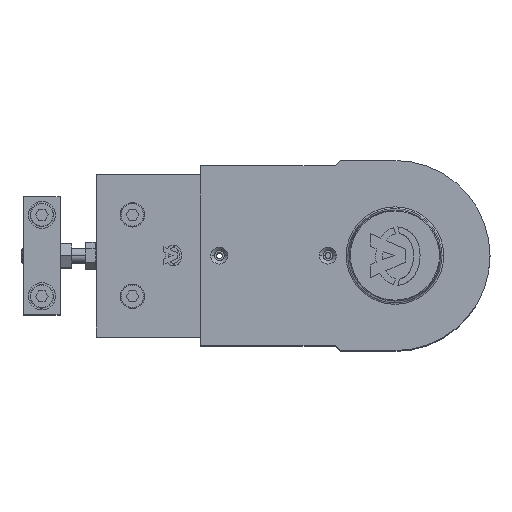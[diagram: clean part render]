
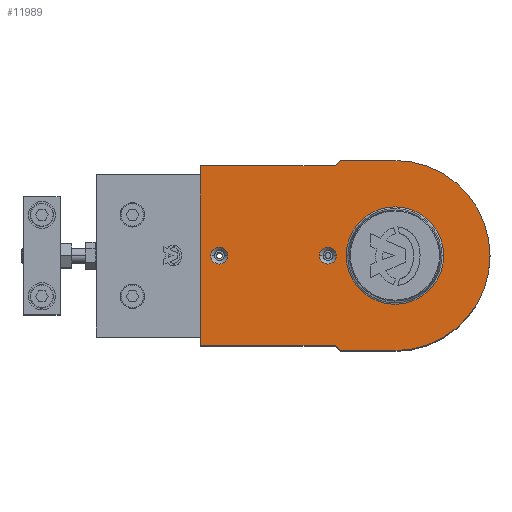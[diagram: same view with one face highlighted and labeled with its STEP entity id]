
A CAD part, top view. The second image highlights one B-rep face of the part: STEP entity #11989.
In plain terms, the highlighted planar face has unit normal (0, 0, 1).
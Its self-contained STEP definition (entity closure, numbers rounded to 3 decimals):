
#588 = ORIENTED_EDGE ( 'NONE', *, *, #6967, .F. ) ;
#639 = VERTEX_POINT ( 'NONE', #821 ) ;
#751 = VERTEX_POINT ( 'NONE', #12690 ) ;
#759 = CARTESIAN_POINT ( 'NONE',  ( 41.7, 0., 0. ) ) ;
#821 = CARTESIAN_POINT ( 'NONE',  ( 101.7, 0., 0. ) ) ;
#1018 = CIRCLE ( 'NONE', #13804, 4.7 ) ;
#1072 = VERTEX_POINT ( 'NONE', #15225 ) ;
#1472 = VERTEX_POINT ( 'NONE', #759 ) ;
#1642 = CARTESIAN_POINT ( 'NONE',  ( 107.5, -49.5, 0. ) ) ;
#2031 = EDGE_CURVE ( 'NONE', #8018, #1072, #2321, .T. ) ;
#2214 = CIRCLE ( 'NONE', #11526, 4.7 ) ;
#2241 = EDGE_CURVE ( 'NONE', #5297, #7460, #16347, .T. ) ;
#2321 = CIRCLE ( 'NONE', #20385, 26.933 ) ;
#2325 = LINE ( 'NONE', #4840, #17919 ) ;
#2341 = DIRECTION ( 'NONE',  ( 0., 0., 1. ) ) ;
#2451 = CARTESIAN_POINT ( 'NONE',  ( 107.5, 49.5, 0. ) ) ;
#2594 = CARTESIAN_POINT ( 'NONE',  ( 97., 0., 0. ) ) ;
#2852 = CARTESIAN_POINT ( 'NONE',  ( 107.5, -49.5, 0. ) ) ;
#3129 = VERTEX_POINT ( 'NONE', #10021 ) ;
#3402 = FACE_BOUND ( 'NONE', #12238, .T. ) ;
#3447 = LINE ( 'NONE', #12591, #17734 ) ;
#3520 = CARTESIAN_POINT ( 'NONE',  ( 26.933, 0., 0. ) ) ;
#3614 = DIRECTION ( 'NONE',  ( 1., 0., 0. ) ) ;
#3803 = CARTESIAN_POINT ( 'NONE',  ( 92.3, 0., 0. ) ) ;
#4095 = DIRECTION ( 'NONE',  ( 0.707, 0.707, 0. ) ) ;
#4465 = DIRECTION ( 'NONE',  ( 1., 0., 0. ) ) ;
#4640 = EDGE_CURVE ( 'NONE', #639, #14322, #15254, .T. ) ;
#4654 = VERTEX_POINT ( 'NONE', #2451 ) ;
#4706 = ORIENTED_EDGE ( 'NONE', *, *, #16841, .T. ) ;
#4785 = PLANE ( 'NONE',  #11278 ) ;
#4840 = CARTESIAN_POINT ( 'NONE',  ( 30., -52.5, 0. ) ) ;
#5265 = CARTESIAN_POINT ( 'NONE',  ( 0., 0., 0. ) ) ;
#5297 = VERTEX_POINT ( 'NONE', #11179 ) ;
#5615 = VECTOR ( 'NONE', #14021, 1000. ) ;
#5635 = CARTESIAN_POINT ( 'NONE',  ( 30., 52.5, 0. ) ) ;
#5732 = EDGE_CURVE ( 'NONE', #14322, #639, #2214, .T. ) ;
#5809 = DIRECTION ( 'NONE',  ( 1., 0., 0. ) ) ;
#5841 = VECTOR ( 'NONE', #4095, 1000. ) ;
#5853 = DIRECTION ( 'NONE',  ( 0., 0., -1. ) ) ;
#5878 = ORIENTED_EDGE ( 'NONE', *, *, #7530, .T. ) ;
#6069 = ORIENTED_EDGE ( 'NONE', *, *, #15145, .T. ) ;
#6967 = EDGE_CURVE ( 'NONE', #751, #1472, #1018, .T. ) ;
#6975 = AXIS2_PLACEMENT_3D ( 'NONE', #10480, #8687, #12249 ) ;
#7059 = LINE ( 'NONE', #1642, #11173 ) ;
#7271 = CARTESIAN_POINT ( 'NONE',  ( 30., -52.5, 0. ) ) ;
#7460 = VERTEX_POINT ( 'NONE', #20128 ) ;
#7530 = EDGE_CURVE ( 'NONE', #18013, #5297, #10179, .T. ) ;
#8018 = VERTEX_POINT ( 'NONE', #3520 ) ;
#8121 = AXIS2_PLACEMENT_3D ( 'NONE', #8711, #13427, #3614 ) ;
#8136 = VERTEX_POINT ( 'NONE', #5635 ) ;
#8325 = CARTESIAN_POINT ( 'NONE',  ( 0., 0., 0. ) ) ;
#8347 = CARTESIAN_POINT ( 'NONE',  ( 33., 49.5, 0. ) ) ;
#8412 = ORIENTED_EDGE ( 'NONE', *, *, #2241, .T. ) ;
#8448 = DIRECTION ( 'NONE',  ( 0., 0., 1. ) ) ;
#8687 = DIRECTION ( 'NONE',  ( 0., 0., 1. ) ) ;
#8711 = CARTESIAN_POINT ( 'NONE',  ( 97., 0., 0. ) ) ;
#9986 = DIRECTION ( 'NONE',  ( 0., 0., 1. ) ) ;
#10021 = CARTESIAN_POINT ( 'NONE',  ( 0., 52.5, 0. ) ) ;
#10179 = LINE ( 'NONE', #18710, #5841 ) ;
#10480 = CARTESIAN_POINT ( 'NONE',  ( 37., 0., 0. ) ) ;
#10527 = CARTESIAN_POINT ( 'NONE',  ( 30., 52.5, 0. ) ) ;
#10774 = EDGE_LOOP ( 'NONE', ( #13838, #11386, #6069, #21046, #15780, #4706, #5878, #8412 ) ) ;
#10922 = AXIS2_PLACEMENT_3D ( 'NONE', #5265, #8448, #19795 ) ;
#11173 = VECTOR ( 'NONE', #13104, 1000. ) ;
#11177 = ORIENTED_EDGE ( 'NONE', *, *, #5732, .F. ) ;
#11179 = CARTESIAN_POINT ( 'NONE',  ( 33., -49.5, 0. ) ) ;
#11278 = AXIS2_PLACEMENT_3D ( 'NONE', #8325, #9986, #11616 ) ;
#11386 = ORIENTED_EDGE ( 'NONE', *, *, #16845, .T. ) ;
#11433 = VERTEX_POINT ( 'NONE', #8347 ) ;
#11526 = AXIS2_PLACEMENT_3D ( 'NONE', #2594, #18854, #5809 ) ;
#11616 = DIRECTION ( 'NONE',  ( 1., 0., 0. ) ) ;
#11621 = EDGE_LOOP ( 'NONE', ( #19308, #11177 ) ) ;
#11770 = ORIENTED_EDGE ( 'NONE', *, *, #20250, .T. ) ;
#11989 = ADVANCED_FACE ( 'NONE', ( #17958, #3402, #12045, #18201 ), #4785, .T. ) ;
#12045 = FACE_BOUND ( 'NONE', #11621, .T. ) ;
#12209 = VERTEX_POINT ( 'NONE', #20368 ) ;
#12238 = EDGE_LOOP ( 'NONE', ( #15699, #588 ) ) ;
#12249 = DIRECTION ( 'NONE',  ( 1., 0., 0. ) ) ;
#12591 = CARTESIAN_POINT ( 'NONE',  ( 33., 49.5, 0. ) ) ;
#12690 = CARTESIAN_POINT ( 'NONE',  ( 32.3, 0., 0. ) ) ;
#12791 = DIRECTION ( 'NONE',  ( 0., 0., -1. ) ) ;
#13029 = DIRECTION ( 'NONE',  ( -1., 0., 0. ) ) ;
#13104 = DIRECTION ( 'NONE',  ( 0., 1., 0. ) ) ;
#13143 = AXIS2_PLACEMENT_3D ( 'NONE', #17822, #12791, #4465 ) ;
#13427 = DIRECTION ( 'NONE',  ( 0., 0., 1. ) ) ;
#13452 = LINE ( 'NONE', #10527, #18661 ) ;
#13535 = ORIENTED_EDGE ( 'NONE', *, *, #2031, .T. ) ;
#13804 = AXIS2_PLACEMENT_3D ( 'NONE', #13870, #2341, #15387 ) ;
#13838 = ORIENTED_EDGE ( 'NONE', *, *, #19808, .T. ) ;
#13870 = CARTESIAN_POINT ( 'NONE',  ( 37., 0., 0. ) ) ;
#14021 = DIRECTION ( 'NONE',  ( 1., 0., 0. ) ) ;
#14294 = DIRECTION ( 'NONE',  ( -1., 0., 0. ) ) ;
#14306 = LINE ( 'NONE', #19648, #16629 ) ;
#14322 = VERTEX_POINT ( 'NONE', #3803 ) ;
#15145 = EDGE_CURVE ( 'NONE', #11433, #8136, #3447, .T. ) ;
#15225 = CARTESIAN_POINT ( 'NONE',  ( -26.933, 0., 0. ) ) ;
#15254 = CIRCLE ( 'NONE', #8121, 4.7 ) ;
#15335 = CARTESIAN_POINT ( 'NONE',  ( 0., 0., 0. ) ) ;
#15387 = DIRECTION ( 'NONE',  ( 1., 0., 0. ) ) ;
#15699 = ORIENTED_EDGE ( 'NONE', *, *, #19370, .F. ) ;
#15780 = ORIENTED_EDGE ( 'NONE', *, *, #16903, .T. ) ;
#16347 = LINE ( 'NONE', #2852, #5615 ) ;
#16629 = VECTOR ( 'NONE', #13029, 1000. ) ;
#16841 = EDGE_CURVE ( 'NONE', #12209, #18013, #2325, .T. ) ;
#16845 = EDGE_CURVE ( 'NONE', #4654, #11433, #14306, .T. ) ;
#16903 = EDGE_CURVE ( 'NONE', #3129, #12209, #20173, .T. ) ;
#17734 = VECTOR ( 'NONE', #19170, 1000. ) ;
#17822 = CARTESIAN_POINT ( 'NONE',  ( 0., 0., 0. ) ) ;
#17919 = VECTOR ( 'NONE', #17973, 1000. ) ;
#17958 = FACE_BOUND ( 'NONE', #19848, .T. ) ;
#17973 = DIRECTION ( 'NONE',  ( 1., 0., 0. ) ) ;
#18013 = VERTEX_POINT ( 'NONE', #7271 ) ;
#18201 = FACE_OUTER_BOUND ( 'NONE', #10774, .T. ) ;
#18295 = CIRCLE ( 'NONE', #13143, 26.933 ) ;
#18603 = CIRCLE ( 'NONE', #6975, 4.7 ) ;
#18623 = DIRECTION ( 'NONE',  ( 1., 0., 0. ) ) ;
#18661 = VECTOR ( 'NONE', #14294, 1000. ) ;
#18710 = CARTESIAN_POINT ( 'NONE',  ( 33., -49.5, 0. ) ) ;
#18854 = DIRECTION ( 'NONE',  ( 0., 0., 1. ) ) ;
#19170 = DIRECTION ( 'NONE',  ( -0.707, 0.707, 0. ) ) ;
#19308 = ORIENTED_EDGE ( 'NONE', *, *, #4640, .F. ) ;
#19370 = EDGE_CURVE ( 'NONE', #1472, #751, #18603, .T. ) ;
#19648 = CARTESIAN_POINT ( 'NONE',  ( 107.5, 49.5, 0. ) ) ;
#19795 = DIRECTION ( 'NONE',  ( 1., 0., 0. ) ) ;
#19808 = EDGE_CURVE ( 'NONE', #7460, #4654, #7059, .T. ) ;
#19848 = EDGE_LOOP ( 'NONE', ( #13535, #11770 ) ) ;
#20060 = EDGE_CURVE ( 'NONE', #8136, #3129, #13452, .T. ) ;
#20128 = CARTESIAN_POINT ( 'NONE',  ( 107.5, -49.5, 0. ) ) ;
#20173 = CIRCLE ( 'NONE', #10922, 52.5 ) ;
#20250 = EDGE_CURVE ( 'NONE', #1072, #8018, #18295, .T. ) ;
#20368 = CARTESIAN_POINT ( 'NONE',  ( 0., -52.5, 0. ) ) ;
#20385 = AXIS2_PLACEMENT_3D ( 'NONE', #15335, #5853, #18623 ) ;
#21046 = ORIENTED_EDGE ( 'NONE', *, *, #20060, .T. ) ;
